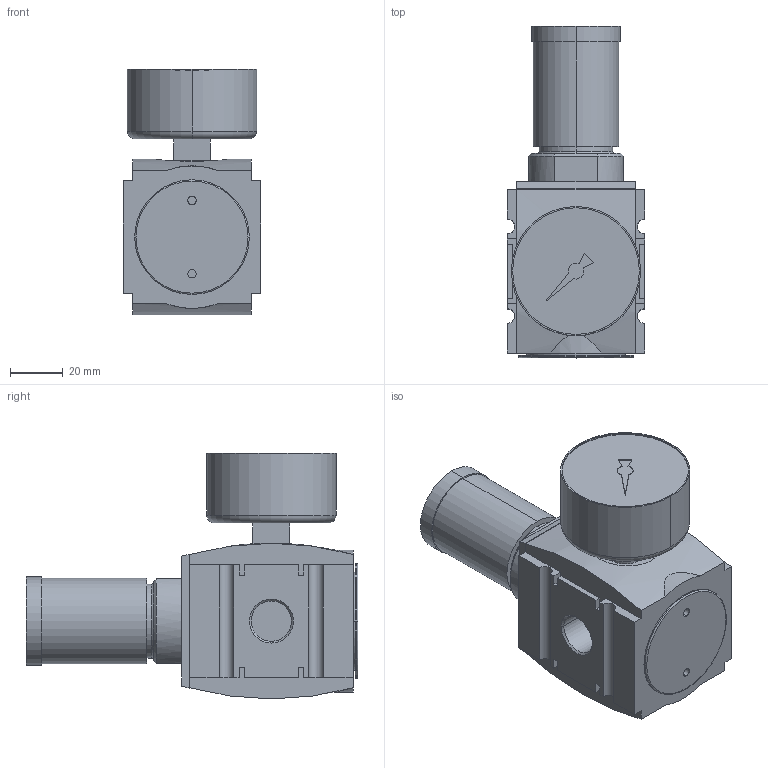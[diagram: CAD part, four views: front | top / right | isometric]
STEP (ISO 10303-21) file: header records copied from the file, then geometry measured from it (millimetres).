
FILE_DESCRIPTION((''),'2;1');
FILE_NAME('R412006151_ASM','2016-06-14T',('prr2cob'),(''),'PRO/ENGINEER BY PARAMETRIC TECHNOLOGY CORPORATION, 2012421','PRO/ENGINEER BY PARAMETRIC TECHNOLOGY CORPORATION, 2012421','');
FILE_SCHEMA(('CONFIG_CONTROL_DESIGN','SHAPE_APPEARANCE_LAYERS_GROUPS'));
Length unit declared in the file: millimetre
Products named in the file (3): R412006151; R412004414; R412006151_ASM
Assembly tree (2 placements, depth 2):
  R412006151_ASM
    R412006151
    R412004414
Bounding box: 52 x 125.8 x 93.2 mm (x, y, z)
Volume: 274140.1 mm3; surface area: 40509.4 mm2
Topology: 2 solids, 2 shells, 155 faces, 371 edges, 240 vertices
Faces by surface type: plane 89, cylinder 46, cone 14, torus 6
Entity records: 4779 total; most frequent: CARTESIAN_POINT 979, DIRECTION 801, ORIENTED_EDGE 742, EDGE_CURVE 371, AXIS2_PLACEMENT_3D 278, VECTOR 245, LINE 245, VERTEX_POINT 240
